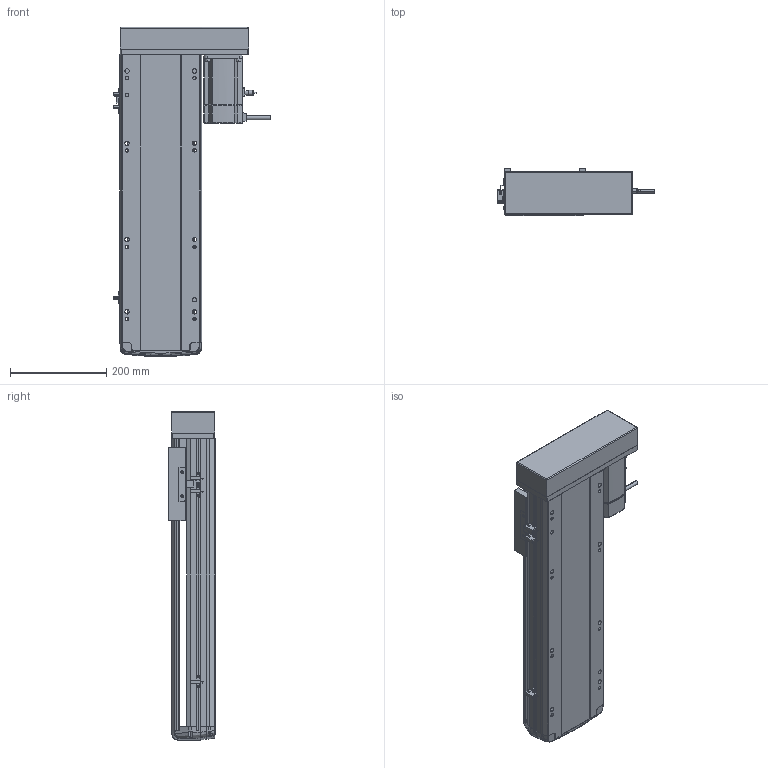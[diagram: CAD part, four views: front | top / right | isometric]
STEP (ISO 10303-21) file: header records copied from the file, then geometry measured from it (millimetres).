
FILE_DESCRIPTION (( 'STEP AP214' ), '1' );
FILE_NAME ('RTH17-XX-400-L-M75-C4.STEP', '2025-10-24T10:32:06', ( '' ), ( '' ), 'SwSTEP 2.0', 'SolidWorks 2018', '' );
FILE_SCHEMA (( 'AUTOMOTIVE_DESIGN' ));
Length unit declared in the file: millimetre
Products named in the file (10): N_OMRON EE-SX672 換覜ん^RTH17-XX-XX-L-M75-C4ㄗ源最宒ㄘ; N_RTH17-L-008-P75电机安装板左转折^RTH17-XX-XX-L-M75-C4（方程式）; N_RTH17-GY-001P^RTH17-XX-XX-L-M75-C4（方程式）; N_RTH-L-012 感应片(外置)^RTH17-XX-XX-L-M75-C4（方程式）; N_RTH17-E-004丝杆螺母连接座^RTH17-XX-XX-L-M75-C4（方程式）; N_RTH17-M-011底座^RTH17-XX-XX-L-M75-C4（方程式）; RTH17-XX-400-L-M75-C4; N_RTH17-L-018盖子^RTH17-XX-XX-L-M75-C4（方程式）; N_M75^RTH17-XX-XX-L-M75-C4（方程式）; N_RTH17-M-007上盖^RTH17-XX-XX-L-M75-C4（方程式）
Assembly tree (11 placements, depth 2):
  RTH17-XX-400-L-M75-C4
    N_RTH17-M-011底座^RTH17-XX-XX-L-M75-C4（方程式）
    N_RTH17-M-007上盖^RTH17-XX-XX-L-M75-C4（方程式）
    N_M75^RTH17-XX-XX-L-M75-C4（方程式）
    N_OMRON EE-SX672 換覜ん^RTH17-XX-XX-L-M75-C4ㄗ源最宒ㄘ  x3
    N_RTH-L-012 感应片(外置)^RTH17-XX-XX-L-M75-C4（方程式）
    N_RTH17-L-008-P75电机安装板左转折^RTH17-XX-XX-L-M75-C4（方程式）
    N_RTH17-L-018盖子^RTH17-XX-XX-L-M75-C4（方程式）
    N_RTH17-E-004丝杆螺母连接座^RTH17-XX-XX-L-M75-C4（方程式）
    N_RTH17-GY-001P^RTH17-XX-XX-L-M75-C4（方程式）
Bounding box: 326.7 x 97 x 683.07 mm (x, y, z)
Volume: 7101982.9 mm3; surface area: 892389.4 mm2
Topology: 13 solids, 15 shells, 1725 faces, 4727 edges, 3058 vertices
Faces by surface type: plane 829, cylinder 482, bspline 377, cone 28, torus 9
Entity records: 49821 total; most frequent: CARTESIAN_POINT 19987, ORIENTED_EDGE 6478, DIRECTION 5383, EDGE_CURVE 3243, VERTEX_POINT 2094, AXIS2_PLACEMENT_3D 1801, LINE 1781, VECTOR 1781
